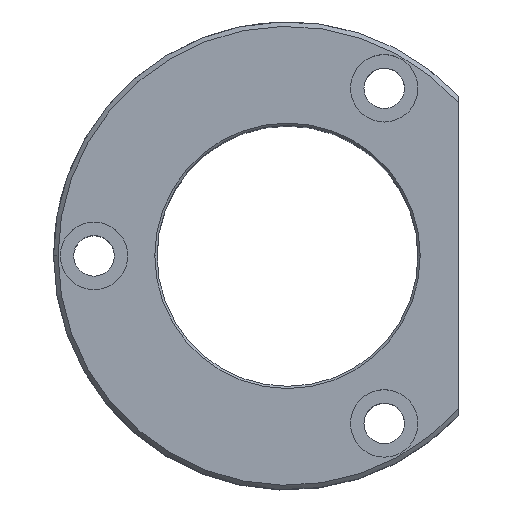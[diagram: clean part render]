
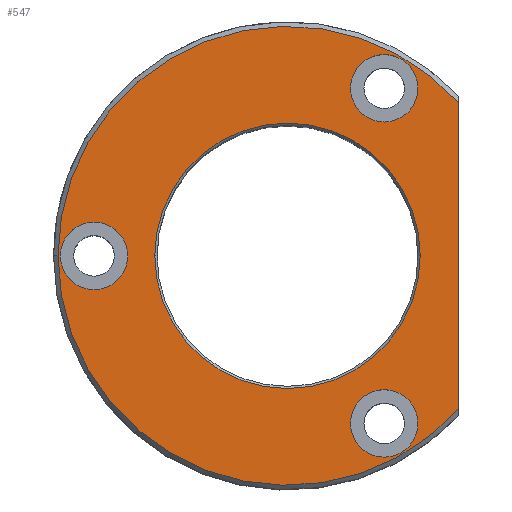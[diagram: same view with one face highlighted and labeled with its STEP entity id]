
A CAD part, top view. The second image highlights one B-rep face of the part: STEP entity #547.
In plain terms, the highlighted planar face has unit normal (0, 0, 1).
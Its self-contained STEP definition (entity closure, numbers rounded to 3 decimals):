
#87=CARTESIAN_POINT('Vertex',(38.,34.015,42.)) ;
#90=CARTESIAN_POINT('Line Origine',(38.,0.,42.)) ;
#94=CARTESIAN_POINT('Vertex',(38.,-34.015,42.)) ;
#445=CARTESIAN_POINT('Vertex',(-51.,0.,42.)) ;
#448=CARTESIAN_POINT('Axis2P3D Location',(0.,0.,42.)) ;
#460=CARTESIAN_POINT('Axis2P3D Location',(29.5,0.,42.)) ;
#465=CARTESIAN_POINT('Axis2P3D Location',(0.,0.,42.)) ;
#475=CARTESIAN_POINT('Axis2P3D Location',(-43.,0.,42.)) ;
#479=CARTESIAN_POINT('Vertex',(-50.5,0.,42.)) ;
#481=CARTESIAN_POINT('Vertex',(-35.5,0.,42.)) ;
#484=CARTESIAN_POINT('Axis2P3D Location',(-43.,0.,42.)) ;
#493=CARTESIAN_POINT('Axis2P3D Location',(21.5,-37.239,42.)) ;
#497=CARTESIAN_POINT('Vertex',(14.,-37.239,42.)) ;
#499=CARTESIAN_POINT('Vertex',(29.,-37.239,42.)) ;
#502=CARTESIAN_POINT('Axis2P3D Location',(21.5,-37.239,42.)) ;
#511=CARTESIAN_POINT('Axis2P3D Location',(21.5,37.239,42.)) ;
#515=CARTESIAN_POINT('Vertex',(14.,37.239,42.)) ;
#517=CARTESIAN_POINT('Vertex',(29.,37.239,42.)) ;
#520=CARTESIAN_POINT('Axis2P3D Location',(21.5,37.239,42.)) ;
#529=CARTESIAN_POINT('Axis2P3D Location',(0.,0.,42.)) ;
#533=CARTESIAN_POINT('Vertex',(-29.5,0.,42.)) ;
#535=CARTESIAN_POINT('Vertex',(29.5,0.,42.)) ;
#538=CARTESIAN_POINT('Axis2P3D Location',(0.,0.,42.)) ;
#91=DIRECTION('Vector Direction',(0.,-1.,0.)) ;
#449=DIRECTION('Axis2P3D Direction',(0.,0.,-1.)) ;
#461=DIRECTION('Axis2P3D Direction',(0.,-0.,1.)) ;
#462=DIRECTION('Axis2P3D XDirection',(1.,0.,0.)) ;
#466=DIRECTION('Axis2P3D Direction',(0.,-0.,1.)) ;
#476=DIRECTION('Axis2P3D Direction',(0.,-0.,1.)) ;
#485=DIRECTION('Axis2P3D Direction',(0.,-0.,1.)) ;
#494=DIRECTION('Axis2P3D Direction',(0.,-0.,1.)) ;
#503=DIRECTION('Axis2P3D Direction',(0.,-0.,1.)) ;
#512=DIRECTION('Axis2P3D Direction',(0.,-0.,1.)) ;
#521=DIRECTION('Axis2P3D Direction',(0.,-0.,1.)) ;
#530=DIRECTION('Axis2P3D Direction',(0.,-0.,1.)) ;
#539=DIRECTION('Axis2P3D Direction',(0.,-0.,1.)) ;
#450=AXIS2_PLACEMENT_3D('Circle Axis2P3D',#448,#449,$) ;
#463=AXIS2_PLACEMENT_3D('Plane Axis2P3D',#460,#461,#462) ;
#467=AXIS2_PLACEMENT_3D('Circle Axis2P3D',#465,#466,$) ;
#477=AXIS2_PLACEMENT_3D('Circle Axis2P3D',#475,#476,$) ;
#486=AXIS2_PLACEMENT_3D('Circle Axis2P3D',#484,#485,$) ;
#495=AXIS2_PLACEMENT_3D('Circle Axis2P3D',#493,#494,$) ;
#504=AXIS2_PLACEMENT_3D('Circle Axis2P3D',#502,#503,$) ;
#513=AXIS2_PLACEMENT_3D('Circle Axis2P3D',#511,#512,$) ;
#522=AXIS2_PLACEMENT_3D('Circle Axis2P3D',#520,#521,$) ;
#531=AXIS2_PLACEMENT_3D('Circle Axis2P3D',#529,#530,$) ;
#540=AXIS2_PLACEMENT_3D('Circle Axis2P3D',#538,#539,$) ;
#471=ORIENTED_EDGE('',*,*,#96,.F.) ;
#472=ORIENTED_EDGE('',*,*,#452,.T.) ;
#473=ORIENTED_EDGE('',*,*,#469,.T.) ;
#490=ORIENTED_EDGE('',*,*,#483,.F.) ;
#491=ORIENTED_EDGE('',*,*,#488,.F.) ;
#508=ORIENTED_EDGE('',*,*,#501,.F.) ;
#509=ORIENTED_EDGE('',*,*,#506,.F.) ;
#526=ORIENTED_EDGE('',*,*,#519,.F.) ;
#527=ORIENTED_EDGE('',*,*,#524,.F.) ;
#544=ORIENTED_EDGE('',*,*,#537,.F.) ;
#545=ORIENTED_EDGE('',*,*,#542,.F.) ;
#492=FACE_BOUND('',#489,.T.) ;
#510=FACE_BOUND('',#507,.T.) ;
#528=FACE_BOUND('',#525,.T.) ;
#546=FACE_BOUND('',#543,.T.) ;
#92=VECTOR('Line Direction',#91,1.) ;
#547=ADVANCED_FACE('737-50',(#474,#492,#510,#528,#546),#464,.T.) ;
#451=CIRCLE('generated circle',#450,51.) ;
#468=CIRCLE('generated circle',#467,51.) ;
#478=CIRCLE('generated circle',#477,7.5) ;
#487=CIRCLE('generated circle',#486,7.5) ;
#496=CIRCLE('generated circle',#495,7.5) ;
#505=CIRCLE('generated circle',#504,7.5) ;
#514=CIRCLE('generated circle',#513,7.5) ;
#523=CIRCLE('generated circle',#522,7.5) ;
#532=CIRCLE('generated circle',#531,29.5) ;
#541=CIRCLE('generated circle',#540,29.5) ;
#96=EDGE_CURVE('',#88,#95,#93,.T.) ;
#452=EDGE_CURVE('',#88,#446,#451,.F.) ;
#469=EDGE_CURVE('',#446,#95,#468,.T.) ;
#483=EDGE_CURVE('',#480,#482,#478,.T.) ;
#488=EDGE_CURVE('',#482,#480,#487,.T.) ;
#501=EDGE_CURVE('',#498,#500,#496,.T.) ;
#506=EDGE_CURVE('',#500,#498,#505,.T.) ;
#519=EDGE_CURVE('',#516,#518,#514,.T.) ;
#524=EDGE_CURVE('',#518,#516,#523,.T.) ;
#537=EDGE_CURVE('',#534,#536,#532,.T.) ;
#542=EDGE_CURVE('',#536,#534,#541,.T.) ;
#470=EDGE_LOOP('',(#471,#472,#473)) ;
#489=EDGE_LOOP('',(#490,#491)) ;
#507=EDGE_LOOP('',(#508,#509)) ;
#525=EDGE_LOOP('',(#526,#527)) ;
#543=EDGE_LOOP('',(#544,#545)) ;
#474=FACE_OUTER_BOUND('',#470,.T.) ;
#93=LINE('Line',#90,#92) ;
#464=PLANE('Plane',#463) ;
#88=VERTEX_POINT('',#87) ;
#95=VERTEX_POINT('',#94) ;
#446=VERTEX_POINT('',#445) ;
#480=VERTEX_POINT('',#479) ;
#482=VERTEX_POINT('',#481) ;
#498=VERTEX_POINT('',#497) ;
#500=VERTEX_POINT('',#499) ;
#516=VERTEX_POINT('',#515) ;
#518=VERTEX_POINT('',#517) ;
#534=VERTEX_POINT('',#533) ;
#536=VERTEX_POINT('',#535) ;
